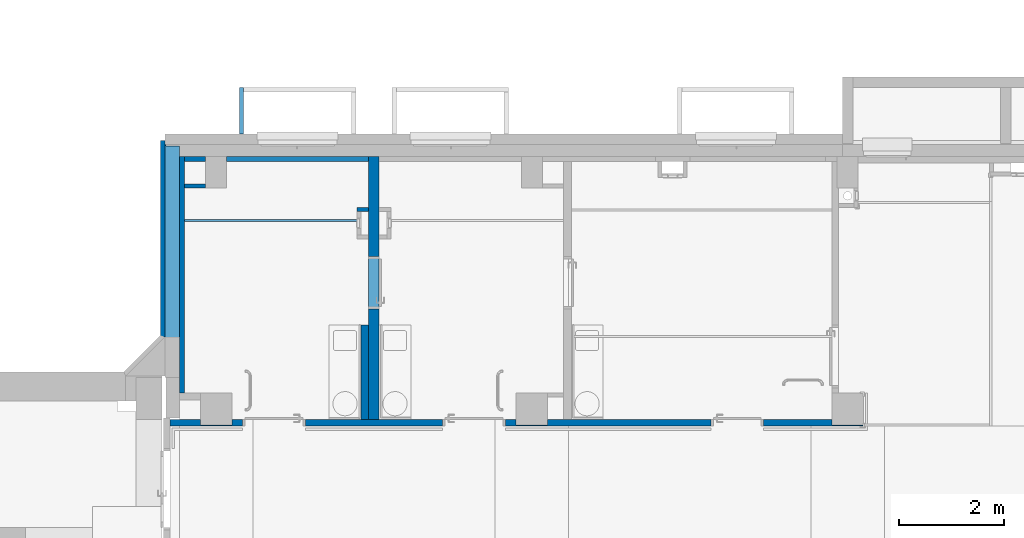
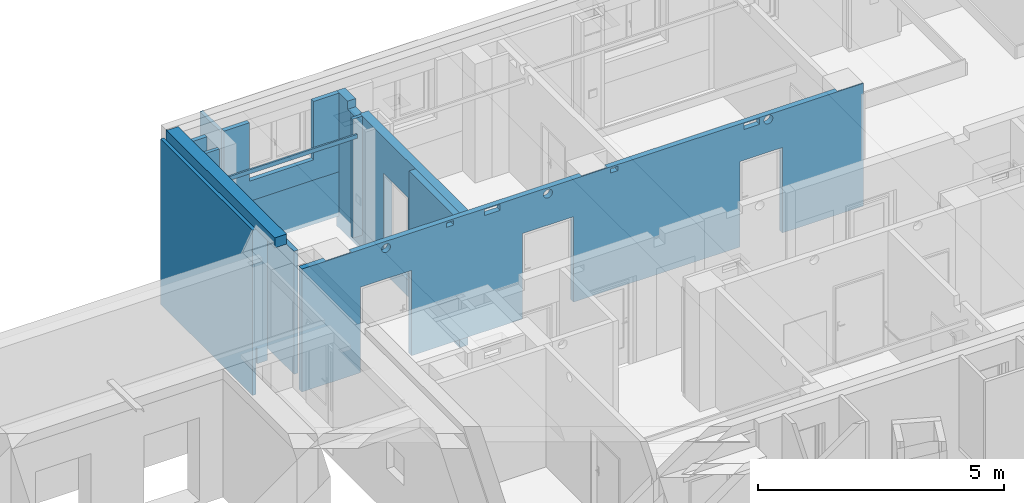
# One storey, part 22 of 84: 13 walls, 18 openings.
"""IFC4 building model written with IfcOpenShell, lengths in metres."""

from ifc_helpers import new_model, entity, si_unit, converted_unit, derived_unit, frame, frame_2d, origin, origin_with_axes, place, context, subcontext, project, spatial, polyline, rectangle, outline, extrude, clip, bounded_halfspace, material, layer, layer_set, layer_usage, element, save


model = new_model("IFC4")

# Units and contexts
model_context = context("Model", 3, precision=1e-05, world=origin())
body_context = subcontext(model_context, "Body", "Model", "MODEL_VIEW")
ifc_project = project(units=[si_unit("LENGTHUNIT", "METRE"), si_unit("AREAUNIT", "SQUARE_METRE"), si_unit("VOLUMEUNIT", "CUBIC_METRE"), si_unit("MASSUNIT", "GRAM", prefix="KILO"), converted_unit("PLANEANGLEUNIT", "DEGREE", entity("IfcPlaneAngleMeasure", 0.0174532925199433), si_unit("PLANEANGLEUNIT", "RADIAN"), dimensions=[0, 0, 0, 0, 0, 0, 0]), derived_unit("THERMALTRANSMITTANCEUNIT", [(si_unit("POWERUNIT", "WATT"), 1), (si_unit("THERMODYNAMICTEMPERATUREUNIT", "KELVIN"), -1), (si_unit("LENGTHUNIT", "METRE"), -2)]), derived_unit("VOLUMETRICFLOWRATEUNIT", [(si_unit("LENGTHUNIT", "METRE"), 3), (converted_unit("TIMEUNIT", "hour", entity("IfcTimeMeasure", 3600.0), si_unit("TIMEUNIT", "SECOND"), dimensions=[0, 0, 1, 0, 0, 0, 0]), -1), (si_unit("LENGTHUNIT", "METRE"), -1)])], contexts=[model_context])

# Site, building, storey
site_placement = place(None, origin())
site = spatial("IfcSite", under=ifc_project, at=site_placement, Name="3. ASŘ", CompositionType="ELEMENT")
building_placement = place(site_placement, origin())
building = spatial("IfcBuilding", under=site, at=building_placement, Name="Pavilon C", CompositionType="ELEMENT")
storey_placement = place(building_placement, frame((0.0, 0.0, -3.3)))
storey = spatial("IfcBuildingStorey", under=building, at=storey_placement, Name="Půdorys 1.PP", CompositionType="ELEMENT", Elevation=-3.3)

# Walls
ifc_material_1 = material(Name="PÓROBETONOVÉ ZDIVO")
ifc_layer_1 = layer(ifc_material_1, 0.1)
ifc_layer_set_1 = layer_set([ifc_layer_1])
ifc_layer_usage_1 = layer_usage(ifc_layer_set_1, "AXIS2", "POSITIVE", 0.0)
wall_1_placement = place(storey_placement, frame((-0.699999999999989, 15.0, -0.1), z_axis=(0.0, 0.0, 1.0), x_axis=(-5.05274834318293e-17, -1.0, 0.0)))
element("IfcWall", 1, at=wall_1_placement, inside=storey, material=ifc_layer_usage_1, Name="PÓROBETONOVÉ ZDIVO", context=body_context, shape_type="SweptSolid", body=[
    extrude(rectangle(XDim=4.5, YDim=0.1, at=frame_2d((2.25, 0.05), x_axis=(1.0, 0.0))), origin_with_axes(), (0.0, 0.0, 1.0), 3.05),
])
ifc_material_2 = material(Name="PÓROBETONOVÉ ZDIVO")
ifc_layer_2 = layer(ifc_material_2, 0.1)
ifc_layer_set_2 = layer_set([ifc_layer_2])
ifc_layer_usage_2 = layer_usage(ifc_layer_set_2, "AXIS2", "POSITIVE", 0.0)
wall_2_placement = place(storey_placement, frame((-0.199999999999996, 15.0, -0.1), z_axis=(0.0, 0.0, 1.0), x_axis=(-1.0, 0.0, 0.0)))
element("IfcWall", 2, at=wall_2_placement, inside=storey, material=ifc_layer_usage_2, Name="PÓROBETONOVÉ ZDIVO", context=body_context, shape_type="SweptSolid", body=[
    extrude(rectangle(XDim=0.399999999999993, YDim=0.1, at=frame_2d((0.199999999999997, 0.05), x_axis=(1.0, 0.0))), origin_with_axes(), (0.0, 0.0, 1.0), 3.05),
])
ifc_material_3 = material(Name="ZELEZOBETONOVÁ KCE")
ifc_layer_3 = layer(ifc_material_3, 0.25)
ifc_material_4 = material(Name="LIGNOPOR")
ifc_layer_4 = layer(ifc_material_4, 0.025)
ifc_material_5 = material(Name="PÓROBETONOVÉ ZDIVO")
ifc_layer_5 = layer(ifc_material_5, 0.0800000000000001)
ifc_layer_set_3 = layer_set([ifc_layer_3, ifc_layer_4, ifc_layer_5])
ifc_layer_usage_3 = layer_usage(ifc_layer_set_3, "AXIS2", "POSITIVE", 0.0)
wall_3_placement = place(storey_placement, frame((-0.699999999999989, 11.5674621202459, -1.15), z_axis=(0.0, 0.0, 1.0), x_axis=(0.0, 1.0, 0.0)))
element("IfcWall", 3, at=wall_3_placement, inside=storey, material=ifc_layer_usage_3, Name="ZELEZOBETONOVÁ KCE", context=body_context, shape_type="Clipping", body=[
    clip(clip(extrude(outline(polyline([(0.0, -0.355), (3.63253787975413, -0.355), (3.63253787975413, -0.105), (3.65753787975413, -0.105), (3.65753787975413, -0.08), (3.73753787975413, -0.08), (3.73753787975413, 0.0), (0.0, 0.0), (0.0, -0.355)])), frame((0.0, 0.355, 0.0), z_axis=(0.0, 0.0, 1.0), x_axis=(1.0, 0.0, 0.0)), (0.0, 0.0, 1.0), 4.1), bounded_halfspace(frame((1.81626893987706, 0.125, 0.750000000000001), z_axis=(0.0, 0.0, 1.0), x_axis=(0.0, -1.0, 0.0)), True, origin_with_axes(), polyline([(-1.81898940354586e-15, 0.25), (-1.81898940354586e-15, -1.13686837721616e-16), (3.63253787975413, -1.13686837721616e-16), (3.63253787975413, 0.25), (-1.81898940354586e-15, 0.25)]))), bounded_halfspace(frame((2.18952272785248, 0.26, 1.15), z_axis=(0.0, 0.0, 1.0), x_axis=(7.27595761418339e-14, -1.0, 0.0)), True, origin_with_axes(), polyline([(-3.63797880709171e-15, 0.275), (-1.81898940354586e-15, 0.25), (3.63253787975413, 0.25), (3.65753787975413, 0.25), (3.65753787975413, 0.275), (-3.63797880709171e-15, 0.275)]))),
])

# Wall, openings
ifc_material_6 = material(Name="ZELEZOBETONOVÁ KCE")
ifc_layer_6 = layer(ifc_material_6, 0.199999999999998)
ifc_layer_set_4 = layer_set([ifc_layer_6])
ifc_layer_usage_4 = layer_usage(ifc_layer_set_4, "AXIS2", "POSITIVE", 0.0)
wall_4_placement = place(storey_placement, frame((2.9, 15.0, -0.4), z_axis=(0.0, 0.0, 1.0), x_axis=(-1.81898940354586e-16, -1.0, 0.0)))
wall_4 = element("IfcWall", 4, at=wall_4_placement, inside=storey, material=ifc_layer_usage_4, Name="ZELEZOBETONOVÁ KCE", context=body_context, shape_type="SweptSolid", body=[
    extrude(rectangle(XDim=5.0, YDim=0.199999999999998, at=frame_2d((2.5, 0.0999999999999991), x_axis=(1.0, 0.0))), origin_with_axes(), (0.0, 0.0, 1.0), 3.35),
])
opening_1_placement = place(wall_4_placement, frame((1.90000000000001, -1.0913936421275e-16, 0.4), z_axis=(0.0, 1.0, 0.0), x_axis=(0.0, 0.0, 1.0)))
element("IfcOpeningElement", 5, at=opening_1_placement, cuts=wall_4, Name="Dveřní otvor", ObjectType="Opening", context=body_context, shape_type="SweptSolid", body=[
    extrude(outline(polyline([(0.0, 1.0), (2.05, 1.0), (2.05, 0.0), (0.0, 0.0), (0.0, 1.0)])), origin_with_axes(), (0.0, 0.0, 1.0), 0.199999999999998),
])
opening_2_placement = place(wall_4_placement, frame((0.938885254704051, 0.199999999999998, 3.15), z_axis=(0.0, -1.0, 0.0), x_axis=(0.0, 0.0, 1.0)))
element("IfcOpeningElement", 6, at=opening_2_placement, cuts=wall_4, Name="UT+VZT", ObjectType="Opening", context=body_context, shape_type="SweptSolid", body=[
    extrude(outline(polyline([(0.0, 0.5), (0.2, 0.5), (0.2, 0.0), (0.0, 0.0), (0.0, 0.5)])), origin_with_axes(), (0.0, 0.0, 1.0), 0.199999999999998),
])
opening_3_placement = place(wall_4_placement, frame((3.53500000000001, 0.199999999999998, 0.815000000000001), z_axis=(0.0, -1.0, 0.0), x_axis=(0.0, 0.0, 1.0)))
element("IfcOpeningElement", 7, at=opening_3_placement, cuts=wall_4, Name="Stěnová nika", ObjectType="Opening", context=body_context, shape_type="SweptSolid", body=[
    extrude(outline(polyline([(0.0349999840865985, 0.0), (0.0313414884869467, 0.000191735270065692), (0.0277230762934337, 0.000764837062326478), (0.0241843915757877, 0.00171302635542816), (0.0207642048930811, 0.00302591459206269), (0.0174999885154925, 0.00468911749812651), (0.0144275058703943, 0.00668441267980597), (0.01158041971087, 0.00898993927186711), (0.00898992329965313, 0.0115804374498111), (0.00668439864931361, 0.0144275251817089), (0.0046891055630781, 0.0175000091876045), (0.00302590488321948, 0.0207642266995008), (0.00171301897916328, 0.0241844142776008), (0.000764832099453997, 0.027723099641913), (0.00019173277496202, 0.0313415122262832), (0.0, 0.0350000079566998), (0.000191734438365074, 0.0386585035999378), (0.000764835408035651, 0.0422769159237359), (0.0017130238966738, 0.0458156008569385), (0.00302591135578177, 0.0492357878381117), (0.00468911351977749, 0.0525000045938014), (0.00668440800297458, 0.0555724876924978), (0.00898993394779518, 0.0584195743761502), (0.0115804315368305, 0.0610100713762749), (0.0144275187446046, 0.0633155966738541), (0.0175000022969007, 0.0653108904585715), (0.020764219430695, 0.0669740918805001), (0.0241844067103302, 0.0682869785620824), (0.0277230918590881, 0.069235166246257), (0.0313415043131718, 0.0698082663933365), (0.0349999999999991, 0.07), (0.0386584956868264, 0.0698082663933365), (0.0422769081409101, 0.069235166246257), (0.045815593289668, 0.0682869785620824), (0.0492357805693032, 0.0669740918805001), (0.0524999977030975, 0.0653108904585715), (0.0555724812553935, 0.0633155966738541), (0.0584195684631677, 0.0610100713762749), (0.061010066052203, 0.0584195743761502), (0.0633155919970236, 0.0555724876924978), (0.0653108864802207, 0.0525000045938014), (0.0669740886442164, 0.0492357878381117), (0.0682869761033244, 0.0458156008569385), (0.0692351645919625, 0.0422769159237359), (0.0698082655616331, 0.0386585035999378), (0.0699999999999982, 0.0350000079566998), (0.0698082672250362, 0.0313415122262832), (0.0692351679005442, 0.027723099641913), (0.0682869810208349, 0.0241844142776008), (0.0669740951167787, 0.0207642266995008), (0.0653108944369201, 0.0175000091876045), (0.0633156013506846, 0.0144275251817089), (0.0610100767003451, 0.0115804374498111), (0.0584195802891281, 0.00898993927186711), (0.0555724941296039, 0.00668441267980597), (0.0525000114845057, 0.00468911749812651), (0.0492357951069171, 0.00302591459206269), (0.0458156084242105, 0.00171302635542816), (0.0422769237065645, 0.000764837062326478), (0.0386585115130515, 0.000191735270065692), (0.0349999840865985, 0.0)])), origin_with_axes(), (0.0, 0.0, 1.0), 0.199999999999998),
])
opening_4_placement = place(wall_4_placement, frame((4.73499994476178, 0.199999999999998, 0.815000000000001), z_axis=(0.0, -1.0, 0.0), x_axis=(0.0, 0.0, 1.0)))
element("IfcOpeningElement", 8, at=opening_4_placement, cuts=wall_4, Name="Stěnová nika", ObjectType="Opening", context=body_context, shape_type="SweptSolid", body=[
    extrude(outline(polyline([(0.0349999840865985, 0.0), (0.0313414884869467, 0.000191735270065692), (0.0277230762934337, 0.000764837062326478), (0.0241843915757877, 0.00171302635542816), (0.0207642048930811, 0.00302591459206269), (0.0174999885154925, 0.00468911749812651), (0.0144275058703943, 0.00668441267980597), (0.01158041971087, 0.0089899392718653), (0.00898992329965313, 0.0115804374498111), (0.00668439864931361, 0.0144275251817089), (0.0046891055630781, 0.0175000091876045), (0.00302590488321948, 0.0207642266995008), (0.00171301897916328, 0.024184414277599), (0.000764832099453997, 0.027723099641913), (0.00019173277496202, 0.0313415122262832), (0.0, 0.035000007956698), (0.000191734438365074, 0.0386585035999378), (0.000764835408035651, 0.0422769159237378), (0.0017130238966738, 0.0458156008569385), (0.00302591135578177, 0.0492357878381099), (0.00468911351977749, 0.0525000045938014), (0.00668440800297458, 0.0555724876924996), (0.00898993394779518, 0.0584195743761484), (0.0115804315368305, 0.0610100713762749), (0.0144275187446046, 0.0633155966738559), (0.0175000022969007, 0.0653108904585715), (0.020764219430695, 0.0669740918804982), (0.0241844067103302, 0.0682869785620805), (0.0277230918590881, 0.0692351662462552), (0.0313415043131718, 0.0698082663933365), (0.0349999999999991, 0.07), (0.0386584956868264, 0.0698082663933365), (0.0422769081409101, 0.0692351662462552), (0.045815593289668, 0.0682869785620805), (0.0492357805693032, 0.0669740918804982), (0.0524999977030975, 0.0653108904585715), (0.0555724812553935, 0.0633155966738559), (0.0584195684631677, 0.0610100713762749), (0.061010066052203, 0.0584195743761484), (0.0633155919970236, 0.0555724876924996), (0.0653108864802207, 0.0525000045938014), (0.0669740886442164, 0.0492357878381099), (0.0682869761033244, 0.0458156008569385), (0.0692351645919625, 0.0422769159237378), (0.0698082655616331, 0.0386585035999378), (0.0699999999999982, 0.035000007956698), (0.0698082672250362, 0.0313415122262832), (0.0692351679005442, 0.027723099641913), (0.0682869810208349, 0.024184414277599), (0.0669740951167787, 0.0207642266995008), (0.0653108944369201, 0.0175000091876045), (0.0633156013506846, 0.0144275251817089), (0.0610100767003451, 0.0115804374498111), (0.0584195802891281, 0.0089899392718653), (0.0555724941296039, 0.00668441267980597), (0.0525000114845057, 0.00468911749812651), (0.0492357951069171, 0.00302591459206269), (0.0458156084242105, 0.00171302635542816), (0.0422769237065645, 0.000764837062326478), (0.0386585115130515, 0.000191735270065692), (0.0349999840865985, 0.0)])), origin_with_axes(), (0.0, 0.0, 1.0), 0.199999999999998),
])

# Walls
ifc_material_7 = material(Name="PÓROBETONOVÉ ZDIVO")
ifc_layer_7 = layer(ifc_material_7, 0.1)
ifc_layer_set_5 = layer_set([ifc_layer_7])
ifc_layer_usage_5 = layer_usage(ifc_layer_set_5, "AXIS2", "POSITIVE", 0.0)
wall_5_placement = place(storey_placement, frame((2.9, 15.0, -0.1), z_axis=(0.0, 0.0, 1.0), x_axis=(-1.0, 0.0, 0.0)))
element("IfcWall", 9, at=wall_5_placement, inside=storey, material=ifc_layer_usage_5, Name="PÓROBETONOVÉ ZDIVO", context=body_context, shape_type="SweptSolid", body=[
    extrude(rectangle(XDim=2.7, YDim=0.1, at=frame_2d((1.35, 0.05), x_axis=(1.0, 0.0))), origin_with_axes(), (0.0, 0.0, 1.0), 1.1),
])
ifc_material_8 = material(Name="ZELEZOBETONOVÁ KCE")
ifc_layer_8 = layer(ifc_material_8, 0.25)
ifc_material_9 = material(Name="LIGNOPOR")
ifc_layer_9 = layer(ifc_material_9, 0.025)
ifc_layer_set_6 = layer_set([ifc_layer_8, ifc_layer_9])
ifc_layer_usage_6 = layer_usage(ifc_layer_set_6, "AXIS2", "POSITIVE", 0.0)
wall_6_placement = place(storey_placement, frame((-0.699999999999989, 10.8, 2.95), z_axis=(0.0, 0.0, 1.0), x_axis=(5.16758353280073e-17, 1.0, 0.0)))
element("IfcWall", 10, at=wall_6_placement, inside=storey, material=ifc_layer_usage_6, context=body_context, shape_type="SweptSolid", body=[
    extrude(outline(polyline([(1.4210854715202e-17, -0.275), (4.4, -0.275), (4.4, -0.025), (4.425, -0.025), (4.425, 1.29189588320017e-18), (0.0, 0.0), (1.4210854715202e-17, -0.275)])), frame((-1.4210854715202e-17, 0.275, 0.0), z_axis=(0.0, 0.0, 1.0), x_axis=(1.0, 0.0, 0.0)), (0.0, 0.0, 1.0), 0.25),
])
ifc_material_10 = material(Name="POHLEDOVY BETON")
ifc_layer_10 = layer(ifc_material_10, 0.08)
ifc_layer_set_7 = layer_set([ifc_layer_10])
ifc_layer_usage_7 = layer_usage(ifc_layer_set_7, "AXIS2", "POSITIVE", 0.0)
wall_7_placement = place(storey_placement, frame((0.525000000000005, 15.425, 1.15), z_axis=(0.0, 0.0, 1.0), x_axis=(0.0, 1.0, 0.0)))
element("IfcWall", 11, at=wall_7_placement, inside=storey, material=ifc_layer_usage_7, Name="STĚNA ANGLICKÉHO DVORKU", context=body_context, shape_type="SweptSolid", body=[
    extrude(rectangle(XDim=0.88, YDim=0.08, at=frame_2d((0.44, 0.04), x_axis=(1.0, 0.0))), origin_with_axes(), (0.0, 0.0, 1.0), 1.35),
])

# Wall, opening
ifc_material_11 = material(Name="YTONG 100")
ifc_layer_11 = layer(ifc_material_11, 0.1)
ifc_layer_set_8 = layer_set([ifc_layer_11])
ifc_layer_usage_8 = layer_usage(ifc_layer_set_8, "AXIS2", "POSITIVE", 0.0)
wall_8_placement = place(storey_placement, frame((0.200000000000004, 14.9, 1.0)))
wall_8 = element("IfcWall", 12, at=wall_8_placement, inside=storey, material=ifc_layer_usage_8, Name="YTONG 100", context=body_context, shape_type="SweptSolid", body=[
    extrude(rectangle(XDim=2.7, YDim=0.1, at=frame_2d((1.35, 0.05), x_axis=(1.0, 0.0))), origin_with_axes(), (0.0, 0.0, 1.0), 1.95),
])
opening_5_placement = place(wall_8_placement, frame((0.6, 0.0, 0.5), z_axis=(0.0, 1.0, 0.0), x_axis=(0.0, 0.0, 1.0)))
element("IfcOpeningElement", 13, at=opening_5_placement, cuts=wall_8, Name="Okenní otvor", ObjectType="Opening", context=body_context, shape_type="SweptSolid", body=[
    extrude(outline(polyline([(0.0, 1.5), (1.45, 1.5), (1.45, 0.0), (0.0, 0.0), (0.0, 1.5)])), origin_with_axes(), (0.0, 0.0, 1.0), 0.1),
])

# Wall
ifc_material_12 = material(Name="SDK SVISLA CAST PODHLEDU")
ifc_layer_12 = layer(ifc_material_12, 0.0400000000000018)
ifc_layer_set_9 = layer_set([ifc_layer_12])
ifc_layer_usage_9 = layer_usage(ifc_layer_set_9, "AXIS2", "POSITIVE", 0.0)
wall_9_placement = place(storey_placement, frame((2.675, 13.8, 2.6), z_axis=(0.0, 0.0, 1.0), x_axis=(-1.0, 0.0, 0.0)))
element("IfcWall", 14, at=wall_9_placement, inside=storey, material=ifc_layer_usage_9, Name="SDK SVISLA CAST PODHLEDU", context=body_context, shape_type="SweptSolid", body=[
    extrude(rectangle(XDim=3.27499999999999, YDim=0.0400000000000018, at=frame_2d((1.6375, 0.0200000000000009), x_axis=(1.0, 0.0))), origin_with_axes(), (0.0, 0.0, 1.0), 0.1),
])

# Wall, openings
ifc_material_13 = material(Name="SDK - 1 KCE + DVOJITÉ OPLÁŠTĚNÍ")
ifc_layer_13 = layer(ifc_material_13, 0.125)
ifc_layer_set_10 = layer_set([ifc_layer_13])
ifc_layer_usage_10 = layer_usage(ifc_layer_set_10, "AXIS2", "POSITIVE", 0.0)
wall_10_placement = place(storey_placement, frame((-0.874999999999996, 9.875, -0.1), z_axis=(0.0, 0.0, 1.0), x_axis=(1.0, -2.76127423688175e-16, 0.0)))
wall_10 = element("IfcWall", 15, at=wall_10_placement, inside=storey, material=ifc_layer_usage_10, Name="SDK - 1 KCE + DVOJITÉ OPLÁŠTĚNÍ", context=body_context, shape_type="SweptSolid", body=[
    extrude(rectangle(XDim=13.175, YDim=0.125, at=frame_2d((6.5875, 0.0625), x_axis=(1.0, 0.0))), origin_with_axes(), (0.0, 0.0, 1.0), 3.05),
])
opening_6_placement = place(wall_10_placement, frame((6.37500000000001, 0.124999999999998, 0.0), z_axis=(0.0, -1.0, 0.0), x_axis=(0.0, 0.0, 1.0)))
element("IfcOpeningElement", 16, at=opening_6_placement, cuts=wall_10, Name="Dveřní otvor", ObjectType="Opening", context=body_context, shape_type="SweptSolid", body=[
    extrude(outline(polyline([(0.0, 1.2), (2.12, 1.2), (2.12, 0.0), (0.0, 0.0), (0.0, 1.2)])), origin_with_axes(), (0.0, 0.0, 1.0), 0.125),
])
opening_7_placement = place(wall_10_placement, frame((1.37500000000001, 3.79675207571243e-16, 0.0), z_axis=(0.0, 1.0, 0.0), x_axis=(0.0, 0.0, 1.0)))
element("IfcOpeningElement", 17, at=opening_7_placement, cuts=wall_10, Name="Dveřní otvor", ObjectType="Opening", context=body_context, shape_type="SweptSolid", body=[
    extrude(outline(polyline([(0.0, 1.2), (2.12, 1.2), (2.12, 0.0), (0.0, 0.0), (0.0, 1.2)])), origin_with_axes(), (0.0, 0.0, 1.0), 0.125),
])
opening_8_placement = place(wall_10_placement, frame((11.275, 0.124999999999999, 0.0), z_axis=(0.0, -1.0, 0.0), x_axis=(0.0, 0.0, 1.0)))
element("IfcOpeningElement", 18, at=opening_8_placement, cuts=wall_10, Name="Dveřní otvor", ObjectType="Opening", context=body_context, shape_type="SweptSolid", body=[
    extrude(outline(polyline([(0.0, 1.0), (2.12, 1.0), (2.12, 0.0), (0.0, 0.0), (0.0, 1.0)])), origin_with_axes(), (0.0, 0.0, 1.0), 0.125),
])
opening_9_placement = place(wall_10_placement, frame((13.175, 0.125, 0.0), z_axis=(0.0, -1.0, 0.0), x_axis=(0.0, 0.0, 1.0)))
element("IfcOpeningElement", 19, at=opening_9_placement, cuts=wall_10, Name="Prostup stěnou", ObjectType="Opening", context=body_context, shape_type="SweptSolid", body=[
    extrude(outline(polyline([(0.0, 0.6), (3.05, 0.6), (3.05, 0.0), (0.0, 0.0), (0.0, 0.6)])), origin_with_axes(), (0.0, 0.0, 1.0), 0.1),
])
opening_10_placement = place(wall_10_placement, frame((1.17500000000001, 0.125, 0.0), z_axis=(0.0, -1.0, 0.0), x_axis=(0.0, 0.0, 1.0)))
element("IfcOpeningElement", 20, at=opening_10_placement, cuts=wall_10, Name="Stěnová nika", ObjectType="Opening", context=body_context, shape_type="SweptSolid", body=[
    extrude(outline(polyline([(0.0, 0.599999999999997), (3.05, 0.599999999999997), (3.05, 0.0), (0.0, 0.0), (0.0, 0.599999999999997)])), origin_with_axes(), (0.0, 0.0, 1.0), 0.100000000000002),
])
opening_11_placement = place(wall_10_placement, frame((7.17500000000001, 0.125, 0.0), z_axis=(0.0, -1.0, 0.0), x_axis=(0.0, 0.0, 1.0)))
element("IfcOpeningElement", 21, at=opening_11_placement, cuts=wall_10, Name="Stěnová nika", ObjectType="Opening", context=body_context, shape_type="SweptSolid", body=[
    extrude(outline(polyline([(0.0, 0.6), (3.05, 0.6), (3.05, 0.0), (0.0, 0.0), (0.0, 0.6)])), origin_with_axes(), (0.0, 0.0, 1.0), 0.1),
])
opening_12_placement = place(wall_10_placement, frame((3.3875, -8.83607755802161e-16, 2.9), z_axis=(0.0, 1.0, 0.0), x_axis=(0.0, 0.0, 1.0)))
element("IfcOpeningElement", 22, at=opening_12_placement, cuts=wall_10, Name="ZTI", ObjectType="Opening", context=body_context, shape_type="SweptSolid", body=[
    extrude(outline(polyline([(0.0, 0.175), (0.11, 0.175), (0.11, 0.0), (0.0, 0.0), (0.0, 0.175)])), origin_with_axes(), (0.0, 0.0, 1.0), 0.125),
])
opening_13_placement = place(wall_10_placement, frame((4.28228473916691, 1.18245625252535e-15, 2.88), z_axis=(0.0, 1.0, 0.0), x_axis=(0.0, 0.0, 1.0)))
element("IfcOpeningElement", 23, at=opening_13_placement, cuts=wall_10, Name="ZTI", ObjectType="Opening", context=body_context, shape_type="SweptSolid", body=[
    extrude(outline(polyline([(0.0, 0.37), (0.15, 0.37), (0.15, 0.0), (0.0, 0.0), (0.0, 0.37)])), origin_with_axes(), (0.0, 0.0, 1.0), 0.125),
])
opening_14_placement = place(wall_10_placement, frame((7.24, 1.80173143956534e-16, 2.9), z_axis=(0.0, 1.0, 0.0), x_axis=(0.0, 0.0, 1.0)))
element("IfcOpeningElement", 24, at=opening_14_placement, cuts=wall_10, Name="ZTI", ObjectType="Opening", context=body_context, shape_type="SweptSolid", body=[
    extrude(outline(polyline([(0.0, 0.175), (0.11, 0.175), (0.11, 0.0), (0.0, 0.0), (0.0, 0.175)])), origin_with_axes(), (0.0, 0.0, 1.0), 0.125),
])
opening_15_placement = place(wall_10_placement, frame((1.87, 5.16358282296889e-16, 2.775), z_axis=(0.0, 1.0, 0.0), x_axis=(0.0, 0.0, 1.0)))
element("IfcOpeningElement", 25, at=opening_15_placement, cuts=wall_10, Name="VZT", ObjectType="Opening", context=body_context, shape_type="SweptSolid", body=[
    extrude(outline(polyline([(0.105, 0.0), (0.0940245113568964, 0.000575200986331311), (0.0831692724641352, 0.00229450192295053), (0.0725532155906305, 0.0051390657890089), (0.062292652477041, 0.00907772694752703), (0.0525, 0.0140673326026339), (0.0432825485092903, 0.0200532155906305), (0.0347412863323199, 0.0269697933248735), (0.0269697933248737, 0.03474128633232), (0.0200532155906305, 0.0432825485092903), (0.014067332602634, 0.0525), (0.00907772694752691, 0.062292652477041), (0.0051390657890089, 0.0725532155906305), (0.00229450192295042, 0.0831692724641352), (0.000575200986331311, 0.0940245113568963), (0.0, 0.105), (0.000575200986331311, 0.115975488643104), (0.00229450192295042, 0.126830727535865), (0.0051390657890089, 0.137446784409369), (0.00907772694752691, 0.147707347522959), (0.014067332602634, 0.1575), (0.0200532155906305, 0.16671745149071), (0.0269697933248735, 0.17525871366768), (0.0347412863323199, 0.183030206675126), (0.0432825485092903, 0.18994678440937), (0.0525, 0.195932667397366), (0.062292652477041, 0.200922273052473), (0.0725532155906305, 0.204860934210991), (0.0831692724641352, 0.20770549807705), (0.0940245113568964, 0.209424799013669), (0.105, 0.21), (0.115975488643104, 0.209424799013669), (0.126830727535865, 0.20770549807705), (0.137446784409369, 0.204860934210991), (0.147707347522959, 0.200922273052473), (0.1575, 0.195932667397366), (0.16671745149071, 0.18994678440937), (0.17525871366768, 0.183030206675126), (0.183030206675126, 0.17525871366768), (0.189946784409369, 0.16671745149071), (0.195932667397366, 0.1575), (0.200922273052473, 0.147707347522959), (0.204860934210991, 0.137446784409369), (0.20770549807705, 0.126830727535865), (0.209424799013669, 0.115975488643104), (0.21, 0.105), (0.209424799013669, 0.0940245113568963), (0.20770549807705, 0.0831692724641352), (0.204860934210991, 0.0725532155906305), (0.200922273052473, 0.062292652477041), (0.195932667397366, 0.0525), (0.18994678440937, 0.0432825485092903), (0.183030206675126, 0.03474128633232), (0.17525871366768, 0.0269697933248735), (0.16671745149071, 0.0200532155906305), (0.1575, 0.0140673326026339), (0.147707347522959, 0.00907772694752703), (0.13744678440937, 0.0051390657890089), (0.126830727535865, 0.00229450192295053), (0.115975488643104, 0.000575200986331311), (0.105, 0.0)])), origin_with_axes(), (0.0, 0.0, 1.0), 0.125),
])
opening_16_placement = place(wall_10_placement, frame((5.67000000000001, -2.07233631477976e-15, 2.795), z_axis=(0.0, 1.0, 0.0), x_axis=(0.0, 0.0, 1.0)))
element("IfcOpeningElement", 26, at=opening_16_placement, cuts=wall_10, Name="VZT", ObjectType="Opening", context=body_context, shape_type="SweptSolid", body=[
    extrude(outline(polyline([(0.105, 0.0), (0.0940245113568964, 0.000575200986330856), (0.0831692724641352, 0.00229450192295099), (0.0725532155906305, 0.00513906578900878), (0.062292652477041, 0.00907772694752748), (0.0525, 0.0140673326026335), (0.0432825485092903, 0.0200532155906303), (0.0347412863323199, 0.0269697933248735), (0.0269697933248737, 0.0347412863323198), (0.0200532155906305, 0.0432825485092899), (0.014067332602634, 0.0525), (0.00907772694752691, 0.062292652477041), (0.0051390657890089, 0.0725532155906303), (0.00229450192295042, 0.0831692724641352), (0.000575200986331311, 0.0940245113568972), (0.0, 0.105), (0.000575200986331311, 0.115975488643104), (0.00229450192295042, 0.126830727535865), (0.0051390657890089, 0.13744678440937), (0.00907772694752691, 0.147707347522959), (0.014067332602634, 0.1575), (0.0200532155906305, 0.16671745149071), (0.0269697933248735, 0.17525871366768), (0.0347412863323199, 0.183030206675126), (0.0432825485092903, 0.18994678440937), (0.0525, 0.195932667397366), (0.062292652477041, 0.200922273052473), (0.0725532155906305, 0.204860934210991), (0.0831692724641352, 0.207705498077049), (0.0940245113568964, 0.209424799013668), (0.105, 0.21), (0.115975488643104, 0.209424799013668), (0.126830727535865, 0.207705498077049), (0.137446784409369, 0.204860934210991), (0.147707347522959, 0.200922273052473), (0.1575, 0.195932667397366), (0.16671745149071, 0.18994678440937), (0.17525871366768, 0.183030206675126), (0.183030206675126, 0.17525871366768), (0.189946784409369, 0.16671745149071), (0.195932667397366, 0.1575), (0.200922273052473, 0.147707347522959), (0.204860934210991, 0.13744678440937), (0.20770549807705, 0.126830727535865), (0.209424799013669, 0.115975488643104), (0.21, 0.105), (0.209424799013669, 0.0940245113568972), (0.20770549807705, 0.0831692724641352), (0.204860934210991, 0.0725532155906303), (0.200922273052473, 0.062292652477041), (0.195932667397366, 0.0525), (0.18994678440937, 0.0432825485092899), (0.183030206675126, 0.0347412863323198), (0.17525871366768, 0.0269697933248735), (0.16671745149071, 0.0200532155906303), (0.1575, 0.0140673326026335), (0.147707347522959, 0.00907772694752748), (0.13744678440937, 0.00513906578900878), (0.126830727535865, 0.00229450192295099), (0.115975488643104, 0.000575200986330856), (0.105, 0.0)])), origin_with_axes(), (0.0, 0.0, 1.0), 0.125),
])
opening_17_placement = place(wall_10_placement, frame((10.3703699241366, -7.74435277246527e-16, 2.88), z_axis=(0.0, 1.0, 0.0), x_axis=(0.0, 0.0, 1.0)))
element("IfcOpeningElement", 27, at=opening_17_placement, cuts=wall_10, Name="ZTI", ObjectType="Opening", context=body_context, shape_type="SweptSolid", body=[
    extrude(outline(polyline([(0.0, 0.37), (0.15, 0.37), (0.15, 0.0), (0.0, 0.0), (0.0, 0.37)])), origin_with_axes(), (0.0, 0.0, 1.0), 0.125),
])
opening_18_placement = place(wall_10_placement, frame((10.8403699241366, -6.44655388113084e-16, 2.825), z_axis=(0.0, 1.0, 0.0), x_axis=(0.0, 0.0, 1.0)))
element("IfcOpeningElement", 28, at=opening_18_placement, cuts=wall_10, Name="VZT", ObjectType="Opening", context=body_context, shape_type="SweptSolid", body=[
    extrude(outline(polyline([(0.105, 0.0), (0.0940245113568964, 0.000575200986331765), (0.0831692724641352, 0.0022945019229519), (0.0725532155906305, 0.00513906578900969), (0.062292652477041, 0.00907772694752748), (0.0525, 0.0140673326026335), (0.0432825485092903, 0.0200532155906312), (0.0347412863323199, 0.0269697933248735), (0.0269697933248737, 0.0347412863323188), (0.0200532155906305, 0.0432825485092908), (0.014067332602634, 0.0524999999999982), (0.00907772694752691, 0.062292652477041), (0.0051390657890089, 0.0725532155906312), (0.00229450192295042, 0.0831692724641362), (0.000575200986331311, 0.0940245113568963), (0.0, 0.105), (0.000575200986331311, 0.115975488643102), (0.00229450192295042, 0.126830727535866), (0.0051390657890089, 0.137446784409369), (0.00907772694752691, 0.147707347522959), (0.014067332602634, 0.1575), (0.0200532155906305, 0.166717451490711), (0.0269697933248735, 0.175258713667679), (0.0347412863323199, 0.183030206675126), (0.0432825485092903, 0.189946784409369), (0.0525, 0.195932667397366), (0.062292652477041, 0.200922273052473), (0.0725532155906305, 0.20486093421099), (0.0831692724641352, 0.20770549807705), (0.0940245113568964, 0.209424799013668), (0.105, 0.21), (0.115975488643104, 0.209424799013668), (0.126830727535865, 0.20770549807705), (0.137446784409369, 0.20486093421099), (0.147707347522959, 0.200922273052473), (0.1575, 0.195932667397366), (0.16671745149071, 0.189946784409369), (0.17525871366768, 0.183030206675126), (0.183030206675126, 0.175258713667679), (0.189946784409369, 0.166717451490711), (0.195932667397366, 0.1575), (0.200922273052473, 0.147707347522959), (0.204860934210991, 0.137446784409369), (0.20770549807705, 0.126830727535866), (0.209424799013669, 0.115975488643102), (0.21, 0.105), (0.209424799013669, 0.0940245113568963), (0.20770549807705, 0.0831692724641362), (0.204860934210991, 0.0725532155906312), (0.200922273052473, 0.062292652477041), (0.195932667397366, 0.0524999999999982), (0.18994678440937, 0.0432825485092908), (0.183030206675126, 0.0347412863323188), (0.17525871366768, 0.0269697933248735), (0.16671745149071, 0.0200532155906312), (0.1575, 0.0140673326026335), (0.147707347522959, 0.00907772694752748), (0.13744678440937, 0.00513906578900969), (0.126830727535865, 0.0022945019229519), (0.115975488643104, 0.000575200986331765), (0.105, 0.0)])), origin_with_axes(), (0.0, 0.0, 1.0), 0.125),
])

# Walls
ifc_material_14 = material(Name="SDK ŠACHTOVÁ STĚNA/SDK OPL. S PO")
ifc_layer_14 = layer(ifc_material_14, 0.075)
ifc_layer_set_11 = layer_set([ifc_layer_14])
ifc_layer_usage_11 = layer_usage(ifc_layer_set_11, "AXIS2", "POSITIVE", 0.0)
wall_11_placement = place(storey_placement, frame((2.675, 13.955, 0.0)))
element("IfcWall", 29, at=wall_11_placement, inside=storey, material=ifc_layer_usage_11, Name="SDK ŠACHTOVÁ STĚNA/SDK OPL. S PO", context=body_context, shape_type="SweptSolid", body=[
    extrude(rectangle(XDim=0.225, YDim=0.075, at=frame_2d((0.1125, 0.0375), x_axis=(1.0, 0.0))), origin_with_axes(), (0.0, 0.0, 1.0), 2.95),
])
ifc_material_15 = material(Name="SDK INSTAL. PŘDSTĚNA VYSOKÁ")
ifc_layer_15 = layer(ifc_material_15, 0.15)
ifc_layer_set_12 = layer_set([ifc_layer_15])
ifc_layer_usage_12 = layer_usage(ifc_layer_set_12, "AXIS2", "POSITIVE", 0.0)
wall_12_placement = place(storey_placement, frame((2.9, 10.0, -0.1), z_axis=(0.0, 0.0, 1.0), x_axis=(2.52637417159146e-16, 1.0, 0.0)))
element("IfcWall", 30, at=wall_12_placement, inside=storey, material=ifc_layer_usage_12, Name="SDK INSTAL. PŘDSTĚNA VYSOKÁ", context=body_context, shape_type="SweptSolid", body=[
    extrude(rectangle(XDim=1.8, YDim=0.15, at=frame_2d((0.900000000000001, 0.075), x_axis=(1.0, 0.0))), origin_with_axes(), (0.0, 0.0, 1.0), 3.05),
])
ifc_material_16 = material(Name="SDK OPL. PROFESÍ/SDK OPL. BEZ PO")
ifc_layer_16 = layer(ifc_material_16, 0.075)
ifc_layer_set_13 = layer_set([ifc_layer_16])
ifc_layer_usage_13 = layer_usage(ifc_layer_set_13, "AXIS2", "POSITIVE", 0.0)
wall_13_placement = place(storey_placement, frame((-0.599999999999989, 14.4, -0.1)))
element("IfcWall", 31, at=wall_13_placement, inside=storey, material=ifc_layer_usage_13, Name="SDK OPL. PROFESÍ/SDK OPL. BEZ PO", context=body_context, shape_type="SweptSolid", body=[
    extrude(rectangle(XDim=0.399999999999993, YDim=0.075, at=frame_2d((0.199999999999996, 0.0375), x_axis=(1.0, 0.0))), origin_with_axes(), (0.0, 0.0, 1.0), 3.05),
])

save(model, "model.ifc")
